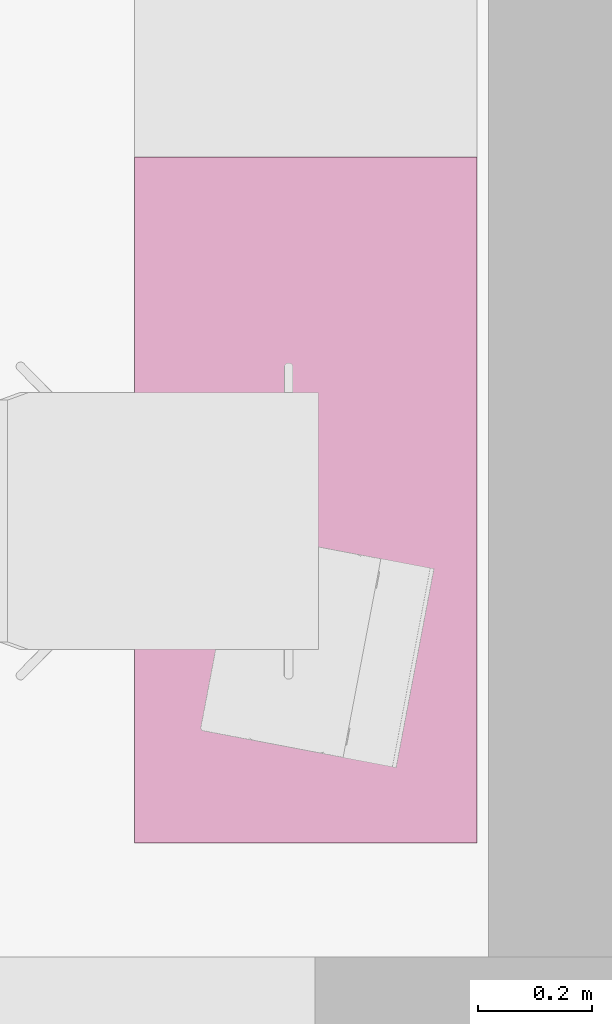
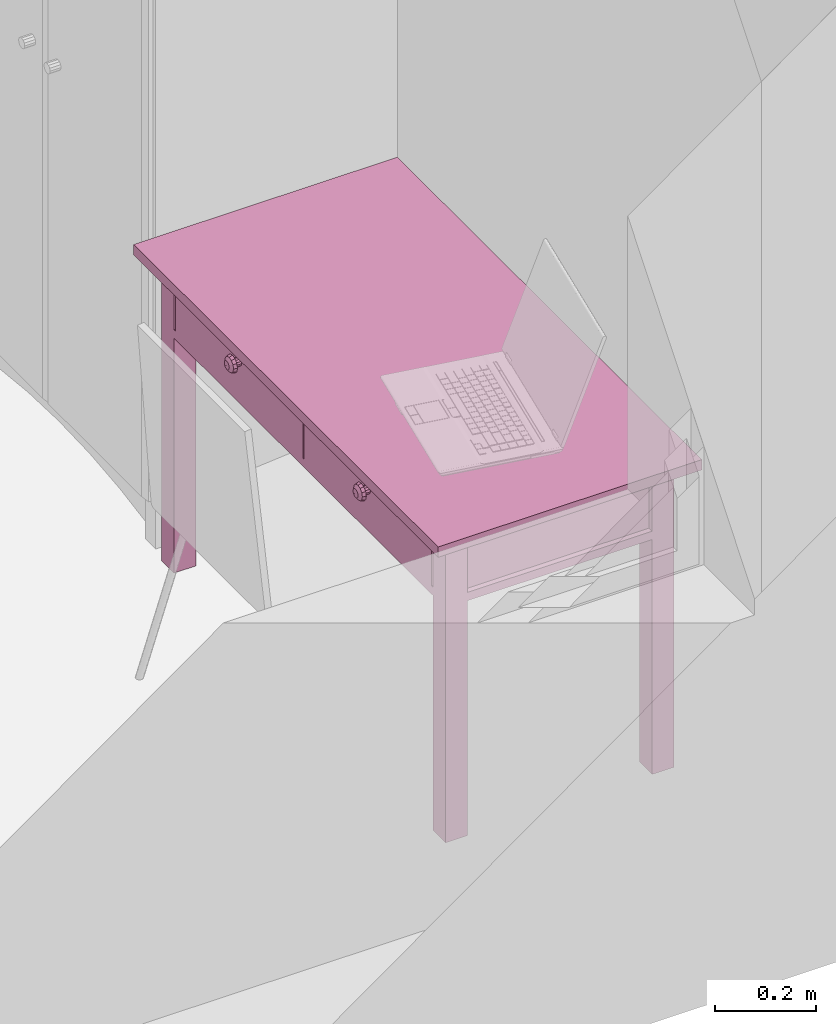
# One storey, part 126 of 172: 1 furnishing.
"""IFC2X3 building model written with IfcOpenShell, lengths in millimetres."""

from ifc_helpers import new_model, entity, si_unit, converted_unit, money_unit, direction, frame, origin_with_axes, place, context, subcontext, project, spatial, faceted_brep, source, transform, mapped, material, material_list, type_object, element, save


model = new_model("IFC2X3")

# Units and contexts
model_context = context("Model", 3, precision=1e-05, world=origin_with_axes(), true_north=direction((0.0, 1.0)))
body_context = subcontext(model_context, "Body", "Model", "MODEL_VIEW")
ifc_project = project(units=[si_unit("LENGTHUNIT", "METRE", prefix="MILLI"), si_unit("AREAUNIT", "SQUARE_METRE"), si_unit("VOLUMEUNIT", "CUBIC_METRE"), converted_unit("PLANEANGLEUNIT", "DEGREE", entity("IfcPlaneAngleMeasure", 0.0174532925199), si_unit("PLANEANGLEUNIT", "RADIAN"), dimensions=[0, 0, 0, 0, 0, 0, 0]), si_unit("SOLIDANGLEUNIT", "STERADIAN"), money_unit("USD"), converted_unit("TIMEUNIT", "Year", entity("IfcTimeMeasure", 31556926.0), si_unit("TIMEUNIT", "SECOND"), dimensions=[0, 0, 0, 0, 0, 0, 0]), si_unit("MASSUNIT", "GRAM"), si_unit("THERMODYNAMICTEMPERATUREUNIT", "DEGREE_CELSIUS"), si_unit("LUMINOUSINTENSITYUNIT", "LUMEN")], contexts=[model_context])

# Site, building, storey
site_placement = place(None, origin_with_axes())
site = spatial("IfcSite", under=ifc_project, at=site_placement, Name="Site", CompositionType="ELEMENT")
building_placement = place(site_placement, origin_with_axes())
building = spatial("IfcBuilding", under=site, at=building_placement, Name="Building", CompositionType="ELEMENT")
storey_placement = place(building_placement, frame((0.0, 0.0, 3200.0), z_axis=(0.0, 0.0, 1.0), x_axis=(1.0, 0.0, 0.0)))
storey = spatial("IfcBuildingStorey", under=building, at=storey_placement, Name="3KORRUS", CompositionType="ELEMENT", Elevation=3200.0)

# Furnishing
ifc_material = material(Name="Background")
ifc_material_list = material_list([ifc_material])
furnishing_element_type = type_object("IfcFurnishingElementType", Name="Rectangular Table 01 19")
shared_shape = source(origin_with_axes(), body_context, "Body", "Brep", [
    faceted_brep([(-90.0, 40.0, 0.0), (-90.0, 90.0, 0.0), (-40.0, 90.0, 0.0), (-40.0, 40.0, 0.0), (-90.0, 40.0, 725.0), (-90.0, 90.0, 725.0), (-40.0, 90.0, 725.0), (-40.0, 40.0, 725.0)], [[[0, 1, 2, 3]], [[0, 4, 5, 1]], [[1, 5, 6, 2]], [[2, 6, 7, 3]], [[3, 7, 4, 0]], [[7, 6, 5, 4]]]),
    faceted_brep([(-1160.0, 40.0, 0.0), (-1160.0, 90.0, 0.0), (-1110.0, 90.0, 0.0), (-1110.0, 40.0, 0.0), (-1160.0, 40.0, 725.0), (-1160.0, 90.0, 725.0), (-1110.0, 90.0, 725.0), (-1110.0, 40.0, 725.0)], [[[0, 1, 2, 3]], [[0, 4, 5, 1]], [[1, 5, 6, 2]], [[2, 6, 7, 3]], [[3, 7, 4, 0]], [[7, 6, 5, 4]]]),
    faceted_brep([(-90.0, 510.0, 0.0), (-90.0, 560.0, 0.0), (-40.0, 560.0, 0.0), (-40.0, 510.0, 0.0), (-90.0, 510.0, 725.0), (-90.0, 560.0, 725.0), (-40.0, 560.0, 725.0), (-40.0, 510.0, 725.0)], [[[0, 1, 2, 3]], [[0, 4, 5, 1]], [[1, 5, 6, 2]], [[2, 6, 7, 3]], [[3, 7, 4, 0]], [[7, 6, 5, 4]]]),
    faceted_brep([(-1160.0, 510.0, 0.0), (-1160.0, 560.0, 0.0), (-1110.0, 560.0, 0.0), (-1110.0, 510.0, 0.0), (-1160.0, 510.0, 725.0), (-1160.0, 560.0, 725.0), (-1110.0, 560.0, 725.0), (-1110.0, 510.0, 725.0)], [[[0, 1, 2, 3]], [[0, 4, 5, 1]], [[1, 5, 6, 2]], [[2, 6, 7, 3]], [[3, 7, 4, 0]], [[7, 6, 5, 4]]]),
    faceted_brep([(-1160.0, 40.0, 565.0), (-1160.0, 560.0, 565.0), (-40.0, 560.0, 565.0), (-40.0, 40.0, 565.0), (-1160.0, 40.0, 585.0), (-1160.0, 560.0, 585.0), (-40.0, 560.0, 585.0), (-40.0, 40.0, 585.0)], [[[0, 1, 2, 3]], [[0, 4, 5, 1]], [[1, 5, 6, 2]], [[2, 6, 7, 3]], [[3, 7, 4, 0]], [[7, 6, 5, 4]]]),
    faceted_brep([(-1110.0, 52.5, 585.0), (-1110.0, 77.5, 585.0), (-90.0, 77.5, 585.0), (-90.0, 52.5, 585.0), (-1110.0, 52.5, 745.0), (-1110.0, 77.5, 745.0), (-90.0, 77.5, 745.0), (-90.0, 52.5, 745.0)], [[[0, 1, 2, 3]], [[0, 4, 5, 1]], [[1, 5, 6, 2]], [[2, 6, 7, 3]], [[3, 7, 4, 0]], [[7, 6, 5, 4]]]),
    faceted_brep([(-77.5, 90.0, 585.0), (-77.5, 510.0, 585.0), (-52.5, 510.0, 585.0), (-52.5, 90.0, 585.0), (-77.5, 90.0, 745.0), (-77.5, 510.0, 745.0), (-52.5, 510.0, 745.0), (-52.5, 90.0, 745.0)], [[[0, 1, 2, 3]], [[0, 4, 5, 1]], [[1, 5, 6, 2]], [[2, 6, 7, 3]], [[3, 7, 4, 0]], [[7, 6, 5, 4]]]),
    faceted_brep([(-90.0, 547.5, 585.0), (-90.0, 522.5, 585.0), (-1110.0, 522.5, 585.0), (-1110.0, 547.5, 585.0), (-90.0, 547.5, 745.0), (-90.0, 522.5, 745.0), (-1110.0, 522.5, 745.0), (-1110.0, 547.5, 745.0)], [[[0, 1, 2, 3]], [[0, 4, 5, 1]], [[1, 5, 6, 2]], [[2, 6, 7, 3]], [[3, 7, 4, 0]], [[7, 6, 5, 4]]]),
    faceted_brep([(-1122.5, 510.0, 585.0), (-1122.5, 90.0, 585.0), (-1147.5, 90.0, 585.0), (-1147.5, 510.0, 585.0), (-1122.5, 510.0, 745.0), (-1122.5, 90.0, 745.0), (-1147.5, 90.0, 745.0), (-1147.5, 510.0, 745.0)], [[[0, 1, 2, 3]], [[0, 4, 5, 1]], [[1, 5, 6, 2]], [[2, 6, 7, 3]], [[3, 7, 4, 0]], [[7, 6, 5, 4]]]),
    faceted_brep([(-597.5, 40.0, 585.0), (-597.5, 60.0, 585.0), (-95.0, 60.0, 585.0), (-95.0, 40.0, 585.0), (-597.5, 40.0, 745.0), (-597.5, 60.0, 745.0), (-95.0, 60.0, 745.0), (-95.0, 40.0, 745.0)], [[[0, 1, 2, 3]], [[0, 4, 5, 1]], [[1, 5, 6, 2]], [[2, 6, 7, 3]], [[3, 7, 4, 0]], [[7, 6, 5, 4]]]),
    faceted_brep([(-1105.0, 40.0, 585.0), (-1105.0, 60.0, 585.0), (-602.5, 60.0, 585.0), (-602.5, 40.0, 585.0), (-1105.0, 40.0, 745.0), (-1105.0, 60.0, 745.0), (-602.5, 60.0, 745.0), (-602.5, 40.0, 745.0)], [[[0, 1, 2, 3]], [[0, 4, 5, 1]], [[1, 5, 6, 2]], [[2, 6, 7, 3]], [[3, 7, 4, 0]], [[7, 6, 5, 4]]]),
    faceted_brep([(-354.91, 40.0, 660.0), (-356.25, 40.0, 665.0), (-354.91, 40.0, 670.0), (-351.25, 40.0, 673.66), (-346.25, 40.0, 675.0), (-341.25, 40.0, 673.66), (-337.59, 40.0, 670.0), (-336.25, 40.0, 665.0), (-337.59, 40.0, 660.0), (-341.25, 40.0, 656.34), (-346.25, 40.0, 655.0), (-351.25, 40.0, 656.34), (-354.91, 25.0, 660.0), (-356.25, 25.0, 665.0), (-354.91, 25.0, 670.0), (-351.25, 25.0, 673.66), (-346.25, 25.0, 675.0), (-341.25, 25.0, 673.66), (-337.59, 25.0, 670.0), (-336.25, 25.0, 665.0), (-337.59, 25.0, 660.0), (-341.25, 25.0, 656.34), (-346.25, 25.0, 655.0), (-351.25, 25.0, 656.34)], [[[0, 1, 2, 3, 4, 5, 6, 7, 8, 9, 10, 11]], [[0, 12, 13, 1]], [[1, 13, 14, 2]], [[2, 14, 15, 3]], [[3, 15, 16, 4]], [[4, 16, 17, 5]], [[5, 17, 18, 6]], [[6, 18, 19, 7]], [[7, 19, 20, 8]], [[8, 20, 21, 9]], [[9, 21, 22, 10]], [[10, 22, 23, 11]], [[11, 23, 12, 0]], [[12, 23, 22, 21, 20, 19, 18, 17, 16, 15, 14, 13]]]),
    faceted_brep([(-356.25, 12.01, 665.0), (-354.91, 12.01, 660.0), (-346.25, 10.0, 665.0), (-363.571, 17.5, 665.0), (-361.25, 17.5, 656.34), (-351.25, 12.01, 656.34), (-354.91, 12.01, 670.0), (-366.25, 25.0, 665.0), (-363.571, 25.0, 655.0), (-354.91, 17.5, 650.0), (-361.25, 17.5, 673.66), (-346.25, 12.01, 655.0), (-351.25, 12.01, 673.66), (-363.571, 25.0, 675.0), (-356.25, 25.0, 682.321), (-346.25, 25.0, 685.0), (-336.25, 25.0, 682.321), (-328.929, 25.0, 675.0), (-326.25, 25.0, 665.0), (-328.929, 25.0, 655.0), (-336.25, 25.0, 647.679), (-346.25, 25.0, 645.0), (-356.25, 25.0, 647.679), (-346.25, 17.5, 647.679), (-354.91, 17.5, 680.0), (-341.25, 12.01, 656.34), (-346.25, 12.01, 675.0), (-346.25, 17.5, 682.321), (-337.59, 17.5, 680.0), (-331.25, 17.5, 673.66), (-328.929, 17.5, 665.0), (-331.25, 17.5, 656.34), (-337.59, 17.5, 650.0), (-337.59, 12.01, 660.0), (-341.25, 12.01, 673.66), (-337.59, 12.01, 670.0), (-336.25, 12.01, 665.0)], [[[0, 1, 2]], [[3, 4, 1, 0]], [[1, 5, 2]], [[6, 0, 2]], [[7, 8, 4, 3]], [[4, 9, 5, 1]], [[10, 3, 0, 6]], [[5, 11, 2]], [[12, 6, 2]], [[8, 7, 13, 14, 15, 16, 17, 18, 19, 20, 21, 22]], [[8, 22, 9, 4]], [[13, 7, 3, 10]], [[9, 23, 11, 5]], [[24, 10, 6, 12]], [[11, 25, 2]], [[26, 12, 2]], [[14, 13, 10, 24]], [[15, 14, 24, 27]], [[16, 15, 27, 28]], [[17, 16, 28, 29]], [[18, 17, 29, 30]], [[19, 18, 30, 31]], [[20, 19, 31, 32]], [[21, 20, 32, 23]], [[22, 21, 23, 9]], [[23, 32, 25, 11]], [[27, 24, 12, 26]], [[25, 33, 2]], [[34, 26, 2]], [[28, 27, 26, 34]], [[29, 28, 34, 35]], [[30, 29, 35, 36]], [[31, 30, 36, 33]], [[32, 31, 33, 25]], [[33, 36, 2]], [[35, 34, 2]], [[36, 35, 2]]]),
    faceted_brep([(-862.41, 40.0, 660.0), (-863.75, 40.0, 665.0), (-862.41, 40.0, 670.0), (-858.75, 40.0, 673.66), (-853.75, 40.0, 675.0), (-848.75, 40.0, 673.66), (-845.09, 40.0, 670.0), (-843.75, 40.0, 665.0), (-845.09, 40.0, 660.0), (-848.75, 40.0, 656.34), (-853.75, 40.0, 655.0), (-858.75, 40.0, 656.34), (-862.41, 25.0, 660.0), (-863.75, 25.0, 665.0), (-862.41, 25.0, 670.0), (-858.75, 25.0, 673.66), (-853.75, 25.0, 675.0), (-848.75, 25.0, 673.66), (-845.09, 25.0, 670.0), (-843.75, 25.0, 665.0), (-845.09, 25.0, 660.0), (-848.75, 25.0, 656.34), (-853.75, 25.0, 655.0), (-858.75, 25.0, 656.34)], [[[0, 1, 2, 3, 4, 5, 6, 7, 8, 9, 10, 11]], [[0, 12, 13, 1]], [[1, 13, 14, 2]], [[2, 14, 15, 3]], [[3, 15, 16, 4]], [[4, 16, 17, 5]], [[5, 17, 18, 6]], [[6, 18, 19, 7]], [[7, 19, 20, 8]], [[8, 20, 21, 9]], [[9, 21, 22, 10]], [[10, 22, 23, 11]], [[11, 23, 12, 0]], [[12, 23, 22, 21, 20, 19, 18, 17, 16, 15, 14, 13]]]),
    faceted_brep([(-863.75, 12.01, 665.0), (-862.41, 12.01, 660.0), (-853.75, 10.0, 665.0), (-871.071, 17.5, 665.0), (-868.75, 17.5, 656.34), (-858.75, 12.01, 656.34), (-862.41, 12.01, 670.0), (-873.75, 25.0, 665.0), (-871.071, 25.0, 655.0), (-862.41, 17.5, 650.0), (-868.75, 17.5, 673.66), (-853.75, 12.01, 655.0), (-858.75, 12.01, 673.66), (-871.071, 25.0, 675.0), (-863.75, 25.0, 682.321), (-853.75, 25.0, 685.0), (-843.75, 25.0, 682.321), (-836.429, 25.0, 675.0), (-833.75, 25.0, 665.0), (-836.429, 25.0, 655.0), (-843.75, 25.0, 647.679), (-853.75, 25.0, 645.0), (-863.75, 25.0, 647.679), (-853.75, 17.5, 647.679), (-862.41, 17.5, 680.0), (-848.75, 12.01, 656.34), (-853.75, 12.01, 675.0), (-853.75, 17.5, 682.321), (-845.09, 17.5, 680.0), (-838.75, 17.5, 673.66), (-836.429, 17.5, 665.0), (-838.75, 17.5, 656.34), (-845.09, 17.5, 650.0), (-845.09, 12.01, 660.0), (-848.75, 12.01, 673.66), (-845.09, 12.01, 670.0), (-843.75, 12.01, 665.0)], [[[0, 1, 2]], [[3, 4, 1, 0]], [[1, 5, 2]], [[6, 0, 2]], [[7, 8, 4, 3]], [[4, 9, 5, 1]], [[10, 3, 0, 6]], [[5, 11, 2]], [[12, 6, 2]], [[8, 7, 13, 14, 15, 16, 17, 18, 19, 20, 21, 22]], [[8, 22, 9, 4]], [[13, 7, 3, 10]], [[9, 23, 11, 5]], [[24, 10, 6, 12]], [[11, 25, 2]], [[26, 12, 2]], [[14, 13, 10, 24]], [[15, 14, 24, 27]], [[16, 15, 27, 28]], [[17, 16, 28, 29]], [[18, 17, 29, 30]], [[19, 18, 30, 31]], [[20, 19, 31, 32]], [[21, 20, 32, 23]], [[22, 21, 23, 9]], [[23, 32, 25, 11]], [[27, 24, 12, 26]], [[25, 33, 2]], [[34, 26, 2]], [[28, 27, 26, 34]], [[29, 28, 34, 35]], [[30, 29, 35, 36]], [[31, 30, 36, 33]], [[32, 31, 33, 25]], [[33, 36, 2]], [[35, 34, 2]], [[36, 35, 2]]]),
    faceted_brep([(-1200.0, 0.0, 725.0), (-1200.0, 600.0, 725.0), (0.0, 600.0, 725.0), (0.0, 0.0, 725.0), (-1200.0, 0.0, 750.0), (-1200.0, 600.0, 750.0), (0.0, 600.0, 750.0), (0.0, 0.0, 750.0)], [[[0, 1, 2, 3]], [[0, 4, 5, 1]], [[1, 5, 6, 2]], [[2, 6, 7, 3]], [[3, 7, 4, 0]], [[7, 6, 5, 4]]]),
])
furnishing_placement = place(storey_placement, frame((5089.70329669, -19439.2398994, 0.0), z_axis=(0.0, 0.0, 1.0), x_axis=(0.0, -1.0, 0.0)))
element("IfcFurnishingElement", 1, at=furnishing_placement, inside=storey, type_object=furnishing_element_type, material=ifc_material_list, Name="FU - 011", context=body_context, shape_type="MappedRepresentation", body=[
    mapped(shared_shape, transform((0.0, 0.0, 0.0))),
])

save(model, "model.ifc")
